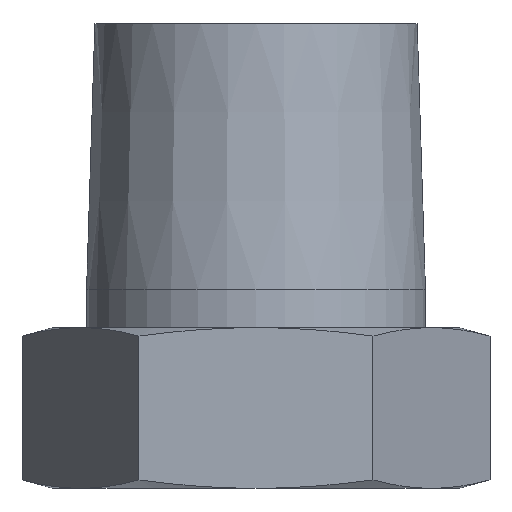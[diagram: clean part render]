
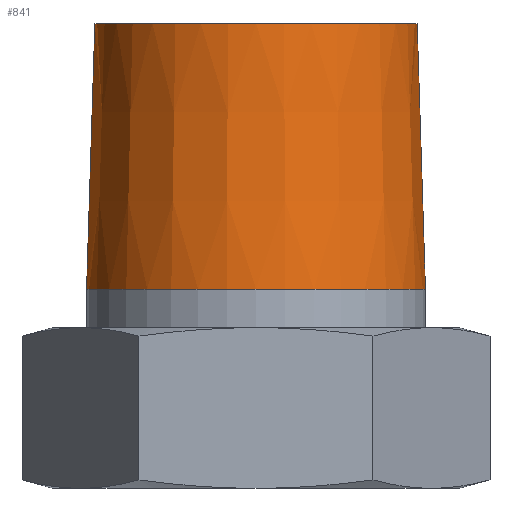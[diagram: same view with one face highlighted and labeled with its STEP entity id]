
A CAD part, left-side view. The second image highlights one B-rep face of the part: STEP entity #841.
In plain terms, the highlighted conical face has half-angle 1.783 degrees and reference radius 7.769 mm.
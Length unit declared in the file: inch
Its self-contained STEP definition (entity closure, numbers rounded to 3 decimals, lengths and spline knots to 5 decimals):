
#298=DIRECTION('',(0.,0.031,1.));
#299=VECTOR('',#298,0.49138);
#300=CARTESIAN_POINT('',(0.,-0.31351,0.36886));
#301=LINE('',#300,#299);
#302=DIRECTION('',(0.,-0.031,1.));
#303=VECTOR('',#302,0.49138);
#304=CARTESIAN_POINT('',(0.,0.31351,0.36886));
#305=LINE('',#304,#303);
#306=CARTESIAN_POINT('',(0.,0.,0.36886));
#307=DIRECTION('',(0.,0.,-1.));
#308=DIRECTION('',(0.,-1.,0.));
#309=AXIS2_PLACEMENT_3D('',#306,#307,#308);
#311=CARTESIAN_POINT('',(0.,0.,0.86));
#312=DIRECTION('',(0.,0.,-1.));
#313=DIRECTION('',(0.,-1.,0.));
#314=AXIS2_PLACEMENT_3D('',#311,#312,#313);
#453=CARTESIAN_POINT('',(0.,-0.29822,0.86));
#454=CARTESIAN_POINT('',(0.,0.29822,0.86));
#455=VERTEX_POINT('',#453);
#456=VERTEX_POINT('',#454);
#457=CARTESIAN_POINT('',(0.,0.31351,0.36886));
#458=VERTEX_POINT('',#457);
#459=CARTESIAN_POINT('',(0.,-0.31351,0.36886));
#460=VERTEX_POINT('',#459);
#829=CARTESIAN_POINT('',(0.,0.,0.61443));
#830=DIRECTION('',(0.,0.,-1.));
#831=DIRECTION('',(0.,-1.,0.));
#832=AXIS2_PLACEMENT_3D('',#829,#830,#831);
#833=CONICAL_SURFACE('',#832,0.30586,1.783);
#834=ORIENTED_EDGE('',*,*,#819,.T.);
#836=ORIENTED_EDGE('',*,*,#835,.F.);
#837=ORIENTED_EDGE('',*,*,#822,.F.);
#838=ORIENTED_EDGE('',*,*,#793,.T.);
#839=EDGE_LOOP('',(#834,#836,#837,#838));
#840=FACE_OUTER_BOUND('',#839,.F.);
#841=ADVANCED_FACE('',(#840),#833,.T.);
#310=CIRCLE('',#309,0.31351);
#315=CIRCLE('',#314,0.29822);
#793=EDGE_CURVE('',#460,#458,#310,.T.);
#819=EDGE_CURVE('',#458,#456,#305,.T.);
#822=EDGE_CURVE('',#460,#455,#301,.T.);
#835=EDGE_CURVE('',#455,#456,#315,.T.);
